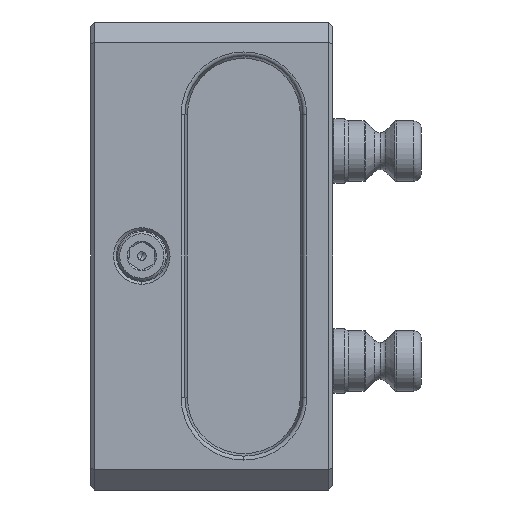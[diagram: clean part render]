
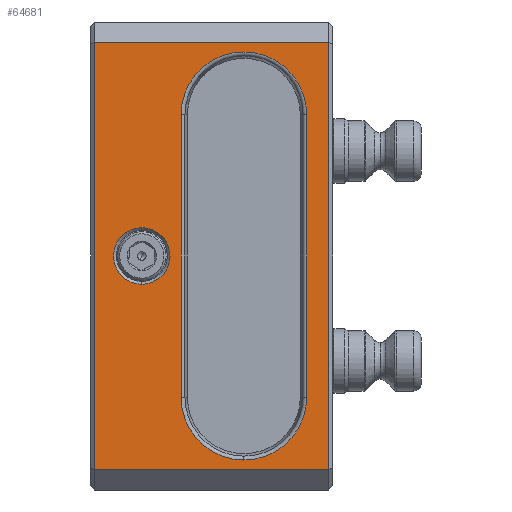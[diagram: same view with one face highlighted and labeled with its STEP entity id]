
A CAD part, left-side view. The second image highlights one B-rep face of the part: STEP entity #64681.
In plain terms, the highlighted planar face has unit normal (-1, 0, 0).
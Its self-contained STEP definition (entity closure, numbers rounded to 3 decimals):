
#58047=DIRECTION('',(0.,0.,1.));
#58048=VECTOR('',#58047,106.);
#58049=CARTESIAN_POINT('',(-75.,59.,-53.));
#58050=LINE('',#58049,#58048);
#58831=DIRECTION('',(0.,-1.,0.));
#58832=VECTOR('',#58831,58.);
#58833=CARTESIAN_POINT('',(-75.,59.,53.));
#58834=LINE('',#58833,#58832);
#58839=CARTESIAN_POINT('',(-75.,47.3,0.));
#58840=DIRECTION('',(1.,0.,0.));
#58841=DIRECTION('',(0.,0.,1.));
#58842=AXIS2_PLACEMENT_3D('',#58839,#58840,#58841);
#58844=CARTESIAN_POINT('',(-75.,47.3,0.));
#58845=DIRECTION('',(1.,0.,0.));
#58846=DIRECTION('',(0.,0.,-1.));
#58847=AXIS2_PLACEMENT_3D('',#58844,#58845,#58846);
#58849=CARTESIAN_POINT('',(-75.,22.,35.));
#58850=DIRECTION('',(1.,0.,0.));
#58851=DIRECTION('',(0.,0.,1.));
#58852=AXIS2_PLACEMENT_3D('',#58849,#58850,#58851);
#58854=CARTESIAN_POINT('',(-75.,22.,35.));
#58855=DIRECTION('',(1.,0.,0.));
#58856=DIRECTION('',(0.,1.,0.));
#58857=AXIS2_PLACEMENT_3D('',#58854,#58855,#58856);
#58859=CARTESIAN_POINT('',(-75.,22.,-35.));
#58860=DIRECTION('',(1.,0.,0.));
#58861=DIRECTION('',(0.,0.,-1.));
#58862=AXIS2_PLACEMENT_3D('',#58859,#58860,#58861);
#58864=CARTESIAN_POINT('',(-75.,22.,-35.));
#58865=DIRECTION('',(1.,0.,0.));
#58866=DIRECTION('',(0.,-1.,0.));
#58867=AXIS2_PLACEMENT_3D('',#58864,#58865,#58866);
#58873=DIRECTION('',(0.,1.,0.));
#58874=VECTOR('',#58873,58.);
#58875=CARTESIAN_POINT('',(-75.,1.,-53.));
#58876=LINE('',#58875,#58874);
#58893=DIRECTION('',(0.,0.,-1.));
#58894=VECTOR('',#58893,106.);
#58895=CARTESIAN_POINT('',(-75.,1.,53.));
#58896=LINE('',#58895,#58894);
#59779=DIRECTION('',(0.,0.,1.));
#59780=VECTOR('',#59779,70.);
#59781=CARTESIAN_POINT('',(-75.,6.429,-35.));
#59782=LINE('',#59781,#59780);
#59811=DIRECTION('',(0.,0.,-1.));
#59812=VECTOR('',#59811,70.);
#59813=CARTESIAN_POINT('',(-75.,37.571,35.));
#59814=LINE('',#59813,#59812);
#62891=CARTESIAN_POINT('',(-75.,59.,-53.));
#62893=VERTEX_POINT('',#62891);
#62899=CARTESIAN_POINT('',(-75.,1.,-53.));
#62901=VERTEX_POINT('',#62899);
#62911=CARTESIAN_POINT('',(-75.,47.3,7.));
#62913=VERTEX_POINT('',#62911);
#63025=CARTESIAN_POINT('',(-75.,37.571,35.));
#63027=VERTEX_POINT('',#63025);
#63184=CARTESIAN_POINT('',(-75.,6.429,-35.));
#63185=CARTESIAN_POINT('',(-75.,22.,-50.571));
#63186=VERTEX_POINT('',#63184);
#63187=VERTEX_POINT('',#63185);
#63338=CARTESIAN_POINT('',(-75.,22.,50.571));
#63339=VERTEX_POINT('',#63338);
#63340=CARTESIAN_POINT('',(-75.,6.429,35.));
#63341=VERTEX_POINT('',#63340);
#63559=CARTESIAN_POINT('',(-75.,1.,53.));
#63561=VERTEX_POINT('',#63559);
#63682=CARTESIAN_POINT('',(-75.,37.571,-35.));
#63683=VERTEX_POINT('',#63682);
#63858=CARTESIAN_POINT('',(-75.,59.,53.));
#63859=VERTEX_POINT('',#63858);
#63866=CARTESIAN_POINT('',(-75.,47.3,-7.));
#63867=VERTEX_POINT('',#63866);
#64648=CARTESIAN_POINT('',(-75.,60.,58.));
#64649=DIRECTION('',(1.,0.,0.));
#64650=DIRECTION('',(0.,0.,-1.));
#64651=AXIS2_PLACEMENT_3D('',#64648,#64649,#64650);
#64652=PLANE('',#64651);
#64654=ORIENTED_EDGE('',*,*,#64653,.T.);
#64655=ORIENTED_EDGE('',*,*,#64257,.T.);
#64656=ORIENTED_EDGE('',*,*,#64639,.T.);
#64658=ORIENTED_EDGE('',*,*,#64657,.T.);
#64659=EDGE_LOOP('',(#64654,#64655,#64656,#64658));
#64660=FACE_OUTER_BOUND('',#64659,.F.);
#64662=ORIENTED_EDGE('',*,*,#64661,.F.);
#64664=ORIENTED_EDGE('',*,*,#64663,.F.);
#64665=EDGE_LOOP('',(#64662,#64664));
#64666=FACE_BOUND('',#64665,.F.);
#64668=ORIENTED_EDGE('',*,*,#64667,.T.);
#64670=ORIENTED_EDGE('',*,*,#64669,.F.);
#64672=ORIENTED_EDGE('',*,*,#64671,.F.);
#64674=ORIENTED_EDGE('',*,*,#64673,.T.);
#64676=ORIENTED_EDGE('',*,*,#64675,.F.);
#64678=ORIENTED_EDGE('',*,*,#64677,.F.);
#64679=EDGE_LOOP('',(#64668,#64670,#64672,#64674,#64676,#64678));
#64680=FACE_BOUND('',#64679,.F.);
#64681=ADVANCED_FACE('',(#64660,#64666,#64680),#64652,.F.);
#58843=CIRCLE('',#58842,7.);
#58848=CIRCLE('',#58847,7.);
#58853=CIRCLE('',#58852,15.571);
#58858=CIRCLE('',#58857,15.571);
#58863=CIRCLE('',#58862,15.571);
#58868=CIRCLE('',#58867,15.571);
#64257=EDGE_CURVE('',#62893,#63859,#58050,.T.);
#64639=EDGE_CURVE('',#63859,#63561,#58834,.T.);
#64653=EDGE_CURVE('',#62901,#62893,#58876,.T.);
#64657=EDGE_CURVE('',#63561,#62901,#58896,.T.);
#64661=EDGE_CURVE('',#62913,#63867,#58843,.T.);
#64663=EDGE_CURVE('',#63867,#62913,#58848,.T.);
#64667=EDGE_CURVE('',#63186,#63341,#59782,.T.);
#64669=EDGE_CURVE('',#63339,#63341,#58853,.T.);
#64671=EDGE_CURVE('',#63027,#63339,#58858,.T.);
#64673=EDGE_CURVE('',#63027,#63683,#59814,.T.);
#64675=EDGE_CURVE('',#63187,#63683,#58863,.T.);
#64677=EDGE_CURVE('',#63186,#63187,#58868,.T.);
